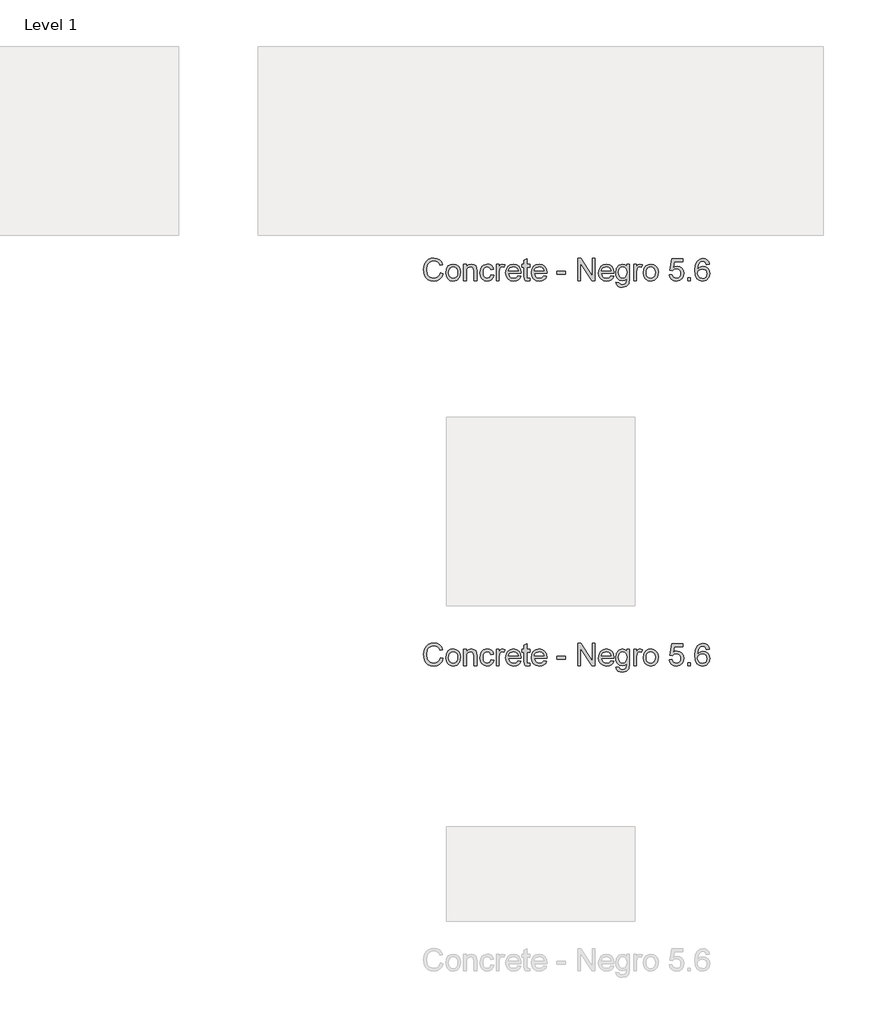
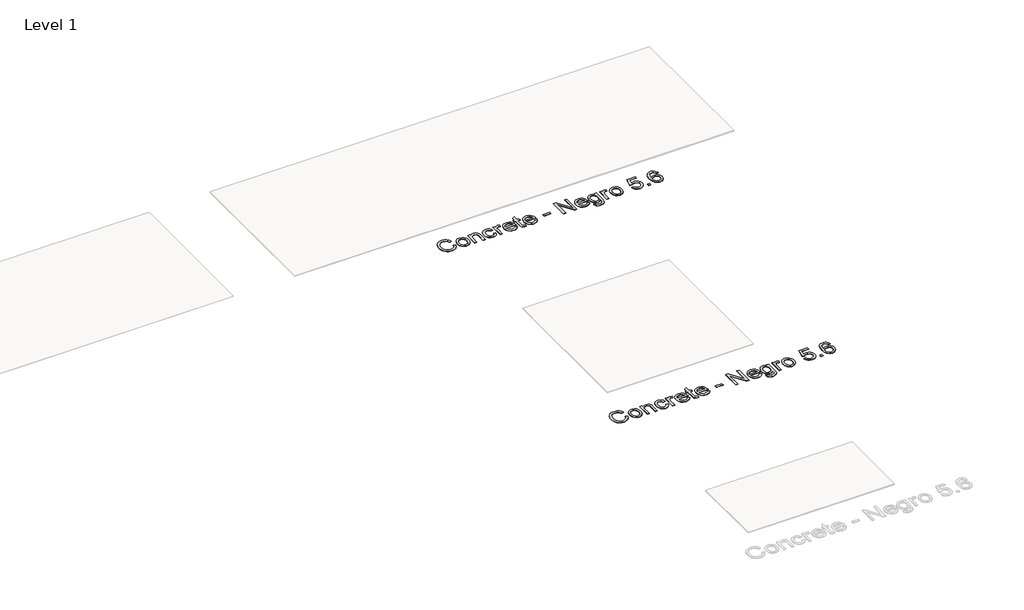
# One storey, part 67 of 80: 2 proxies.
"""IFC4 building model written with IfcOpenShell, lengths in millimetres."""

from ifc_helpers import new_model, si_unit, origin, origin_with_axes, place, context, project, spatial, polyline, outline, extrude, element, save

model = new_model("IFC4")

# Units and contexts
model_context = context("Model", 3, world=origin())
ifc_project = project(units=[si_unit("LENGTHUNIT", "METRE", prefix="MILLI")], contexts=[model_context])

# Site, building, storey
site = spatial("IfcSite", under=ifc_project)
building = spatial("IfcBuilding", under=site)
storey = spatial("IfcBuildingStorey", under=building, Name="Level 1", Elevation=0.0)

# Proxies
placement = place(None, origin())
element("IfcBuildingElementProxy", 1, Name="24\" Arial", ObjectType="24\" Arial", at=placement, inside=storey, context=model_context, shape_type="SweptSolid", body=[
    extrude(outline(polyline([(301.846969, 10790.728562), (316.6161998, 10786.9208697), (309.8012959, 10769.7105332), (299.1065844, 10757.1372159), (285.0585075, 10749.4461101), (268.1835075, 10746.8824082), (251.0524979, 10748.822312), (237.4479306, 10754.6420236), (227.0200459, 10764.1396197), (219.4190844, 10777.1131774), (214.7784594, 10792.3655813), (213.2315844, 10808.6997159), (214.9803825, 10825.9280813), (220.2267767, 10840.8054851), (228.6967286, 10852.8595717), (240.1161998, 10861.6179851), (253.659469, 10866.9509178), (268.5008152, 10868.728562), (284.6943248, 10866.4280813), (298.0825459, 10859.526639), (308.2472094, 10848.4497159), (314.7700459, 10833.6227928), (300.0008152, 10830.103562), (294.8806229, 10840.8739947), (287.8854306, 10848.2622159), (278.9286998, 10852.5350524), (267.9238921, 10853.9593313), (255.2387959, 10852.3800044), (244.8181229, 10847.6420236), (236.9106709, 10840.2429851), (231.7652383, 10830.6804851), (228.0008152, 10808.728562), (232.4575459, 10783.2862544), (238.1546613, 10773.7850524), (246.3325459, 10767.0314467), (266.7123536, 10761.651639), (279.0404786, 10763.4833697), (289.3133152, 10768.978562), (297.0693248, 10778.0795236), (301.846969, 10790.728562)])), origin_with_axes(), (0.0, 0.0, 1.0), 2.0),
    extrude(outline(polyline([(331.3854306, 10792.1131774), (334.5801421, 10813.0338505), (344.1642767, 10827.7381774), (356.0056229, 10834.9425044), (370.1835075, 10837.3439467), (385.6991325, 10834.4196678), (398.0921613, 10825.6468313), (406.2159594, 10811.7177447), (408.9238921, 10793.3247159), (404.1354306, 10767.0458697), (390.1883152, 10752.1756774), (370.1835075, 10746.8824082), (354.4803825, 10749.7958697), (342.1017767, 10758.5362544), (334.0645171, 10772.7574082), (331.3854306, 10792.1131774)]), holes=[polyline([(346.1546613, 10792.1420236), (347.8637959, 10778.775437), (352.9911998, 10769.2526005), (360.7075459, 10763.5518794), (370.1835075, 10761.651639), (379.6161998, 10763.5626967), (387.3181229, 10769.2958697), (392.4455267, 10778.9449082), (394.1546613, 10792.603562), (392.4347094, 10805.5807255), (387.2748536, 10814.9737544), (379.5621133, 10820.6744755), (370.1835075, 10822.5747159), (360.7075459, 10820.681687), (352.9911998, 10815.0026005), (347.8637959, 10805.5013986), (346.1546613, 10792.1420236)])]), origin_with_axes(), (0.0, 0.0, 1.0), 2.0),
    extrude(outline(polyline([(425.5392767, 10748.728562), (425.5392767, 10835.4977928), (440.3085075, 10835.4977928), (440.3085075, 10823.3824082), (451.6017767, 10833.853562), (467.0200459, 10837.3439467), (480.9671613, 10834.5314467), (490.4863921, 10827.1468313), (494.9142767, 10816.2862544), (495.6931229, 10802.0074082), (495.6931229, 10748.728562), (480.9238921, 10748.728562), (480.9238921, 10800.0170236), (479.221969, 10813.0843313), (473.2075459, 10819.9929851), (463.0681229, 10822.5747159), (447.0440844, 10816.776639), (441.9924017, 10808.3751967), (440.3085075, 10794.7670236), (440.3085075, 10748.728562), (425.5392767, 10748.728562)])), origin_with_axes(), (0.0, 0.0, 1.0), 2.0),
    extrude(outline(polyline([(571.3854306, 10780.1131774), (586.1546613, 10778.2670236), (582.0368729, 10765.1312063), (574.2988921, 10755.2045236), (563.6690844, 10748.962937), (550.8758152, 10746.8824082), (535.1654786, 10749.7850524), (522.8806229, 10758.4929851), (514.9515363, 10772.6239947), (512.3085075, 10791.7958697), (516.8229306, 10816.3295236), (522.5200459, 10825.5278409), (530.5825459, 10832.0939467), (550.6738921, 10837.3439467), (563.1534594, 10835.541062), (573.1306229, 10830.1324082), (580.2880748, 10821.4064467), (584.3085075, 10809.651639), (569.5392767, 10807.8054851), (562.6883152, 10818.8679851), (550.7892767, 10822.5747159), (541.2448056, 10820.7501967), (533.6690844, 10815.276639), (528.7255748, 10805.8583697), (527.0777383, 10792.1997159), (528.6895171, 10778.3571678), (533.5248536, 10768.9064467), (540.9635556, 10763.4653409), (550.3854306, 10761.651639), (564.3036998, 10766.1804851), (571.3854306, 10780.1131774)])), origin_with_axes(), (0.0, 0.0, 1.0), 2.0),
    extrude(outline(polyline([(599.0777383, 10748.728562), (599.0777383, 10835.4977928), (612.0008152, 10835.4977928), (612.0008152, 10822.6612544), (621.1738921, 10834.4881774), (630.4046613, 10837.3439467), (645.2315844, 10832.7862544), (640.2988921, 10819.5458697), (629.9142767, 10822.5747159), (621.5633152, 10819.6612544), (616.2411998, 10811.5843313), (613.846969, 10794.3343313), (613.846969, 10748.728562), (599.0777383, 10748.728562)])), origin_with_axes(), (0.0, 0.0, 1.0), 2.0),
    extrude(outline(polyline([(715.2123536, 10774.5747159), (729.6931229, 10772.728562), (724.4755748, 10761.8175044), (716.1498536, 10753.6612544), (704.9034594, 10748.5771197), (690.9238921, 10746.8824082), (673.5945652, 10749.806687), (660.2604306, 10758.5795236), (651.7580267, 10772.6312063), (648.9238921, 10791.3920236), (651.7868729, 10810.7838505), (660.3758152, 10825.2862544), (673.5296613, 10834.3295236), (690.0873536, 10837.3439467), (706.1294209, 10834.3367351), (718.9479306, 10825.3151005), (727.3529786, 10810.8415428), (730.1546613, 10791.478562), (730.0681229, 10787.4977928), (663.6931229, 10787.4977928), (666.2496133, 10776.4425044), (672.1883152, 10768.3151005), (680.7592286, 10763.3175044), (691.2123536, 10761.651639), (705.6931229, 10764.7381774), (715.2123536, 10774.5747159)]), holes=[polyline([(663.6931229, 10802.2670236), (715.3854306, 10802.2670236), (709.471969, 10815.651639), (700.8613921, 10820.8439467), (690.0296613, 10822.5747159), (671.8421613, 10817.0506774), (666.1198056, 10810.5927447), (663.6931229, 10802.2670236)])]), origin_with_axes(), (0.0, 0.0, 1.0), 2.0),
    extrude(outline(polyline([(776.3085075, 10761.0458697), (778.1546613, 10748.2958697), (767.1065844, 10746.8824082), (754.7315844, 10749.3343313), (748.5585075, 10755.7670236), (746.7700459, 10772.526639), (746.7700459, 10820.728562), (735.6931229, 10820.728562), (735.6931229, 10835.4977928), (746.7700459, 10835.4977928), (746.7700459, 10856.5843313), (761.5392767, 10865.2670236), (761.5392767, 10835.4977928), (776.3085075, 10835.4977928), (776.3085075, 10820.728562), (761.5392767, 10820.728562), (761.5392767, 10772.9593313), (762.3181229, 10765.3439467), (764.8421613, 10762.6468313), (769.8758152, 10761.651639), (776.3085075, 10761.0458697)])), origin_with_axes(), (0.0, 0.0, 1.0), 2.0),
    extrude(outline(polyline([(851.8277383, 10774.5747159), (866.3085075, 10772.728562), (861.0909594, 10761.8175044), (852.7652383, 10753.6612544), (841.518844, 10748.5771197), (827.5392767, 10746.8824082), (810.2099498, 10749.806687), (796.8758152, 10758.5795236), (788.3734113, 10772.6312063), (785.5392767, 10791.3920236), (788.4022575, 10810.7838505), (796.9911998, 10825.2862544), (810.1450459, 10834.3295236), (826.7027383, 10837.3439467), (842.7448056, 10834.3367351), (855.5633152, 10825.3151005), (863.9683633, 10810.8415428), (866.7700459, 10791.478562), (866.6835075, 10787.4977928), (800.3085075, 10787.4977928), (802.8649979, 10776.4425044), (808.8036998, 10768.3151005), (817.3746133, 10763.3175044), (827.8277383, 10761.651639), (842.3085075, 10764.7381774), (851.8277383, 10774.5747159)]), holes=[polyline([(800.3085075, 10802.2670236), (852.0008152, 10802.2670236), (846.0873536, 10815.651639), (837.4767767, 10820.8439467), (826.6450459, 10822.5747159), (808.4575459, 10817.0506774), (802.7351902, 10810.5927447), (800.3085075, 10802.2670236)])]), origin_with_axes(), (0.0, 0.0, 1.0), 2.0),
    extrude(outline(polyline([(920.3085075, 10783.8054851), (920.3085075, 10798.5747159), (966.4623536, 10798.5747159), (966.4623536, 10783.8054851), (920.3085075, 10783.8054851)])), origin_with_axes(), (0.0, 0.0, 1.0), 2.0),
    extrude(outline(polyline([(1031.0777383, 10748.728562), (1031.0777383, 10866.8824082), (1046.8854306, 10866.8824082), (1108.6161998, 10773.276639), (1108.6161998, 10866.8824082), (1123.3854306, 10866.8824082), (1123.3854306, 10748.728562), (1107.5777383, 10748.728562), (1045.846969, 10842.3631774), (1045.846969, 10748.728562), (1031.0777383, 10748.728562)])), origin_with_axes(), (0.0, 0.0, 1.0), 2.0),
    extrude(outline(polyline([(1208.1354306, 10774.5747159), (1222.6161998, 10772.728562), (1217.3986517, 10761.8175044), (1209.0729306, 10753.6612544), (1197.8265363, 10748.5771197), (1183.846969, 10746.8824082), (1166.5176421, 10749.806687), (1153.1835075, 10758.5795236), (1144.6811036, 10772.6312063), (1141.846969, 10791.3920236), (1144.7099498, 10810.7838505), (1153.2988921, 10825.2862544), (1166.4527383, 10834.3295236), (1183.0104306, 10837.3439467), (1199.0524979, 10834.3367351), (1211.8710075, 10825.3151005), (1220.2760556, 10810.8415428), (1223.0777383, 10791.478562), (1222.9911998, 10787.4977928), (1156.6161998, 10787.4977928), (1159.1726902, 10776.4425044), (1165.1113921, 10768.3151005), (1173.6823056, 10763.3175044), (1184.1354306, 10761.651639), (1198.6161998, 10764.7381774), (1208.1354306, 10774.5747159)]), holes=[polyline([(1156.6161998, 10802.2670236), (1208.3085075, 10802.2670236), (1202.3950459, 10815.651639), (1193.784469, 10820.8439467), (1182.9527383, 10822.5747159), (1164.7652383, 10817.0506774), (1159.0428825, 10810.5927447), (1156.6161998, 10802.2670236)])]), origin_with_axes(), (0.0, 0.0, 1.0), 2.0),
    extrude(outline(polyline([(1234.1546613, 10741.3439467), (1248.9238921, 10739.4977928), (1253.7123536, 10731.7093313), (1268.0488921, 10728.4208697), (1283.1642767, 10732.1420236), (1290.3758152, 10742.5843313), (1291.3854306, 10759.8054851), (1280.9863921, 10751.4977928), (1268.3085075, 10748.728562), (1253.081344, 10751.9521197), (1241.7267767, 10761.6227928), (1234.6630748, 10775.8006774), (1232.3085075, 10792.5458697), (1236.534469, 10815.4352928), (1248.7652383, 10831.6324082), (1267.5873536, 10837.3439467), (1280.7628344, 10834.1131774), (1291.3854306, 10824.4208697), (1291.3854306, 10835.4977928), (1306.1546613, 10835.4977928), (1306.1546613, 10760.5843313), (1302.1161998, 10731.8968313), (1289.3229306, 10718.5554851), (1267.7604306, 10713.651639), (1254.018844, 10715.3788024), (1243.1979306, 10720.5602928), (1236.2568248, 10729.2105332), (1234.1546613, 10741.3439467)]), holes=[polyline([(1247.0777383, 10793.5554851), (1248.6534594, 10780.0086101), (1253.3806229, 10770.6949082), (1260.487594, 10765.2970717), (1269.2027383, 10763.4977928), (1277.8529786, 10765.2862544), (1284.9960075, 10770.651639), (1289.7880748, 10779.8463505), (1291.3854306, 10793.1227928), (1289.7411998, 10805.9268794), (1284.8085075, 10815.1468313), (1277.5609113, 10820.7177447), (1268.971969, 10822.5747159), (1260.5380748, 10820.7465909), (1253.4671613, 10815.2622159), (1248.675094, 10806.1792832), (1247.0777383, 10793.5554851)])]), origin_with_axes(), (0.0, 0.0, 1.0), 2.0),
    extrude(outline(polyline([(1328.3085075, 10748.728562), (1328.3085075, 10835.4977928), (1341.2315844, 10835.4977928), (1341.2315844, 10822.6612544), (1350.4046613, 10834.4881774), (1359.6354306, 10837.3439467), (1374.4623536, 10832.7862544), (1369.5296613, 10819.5458697), (1359.1450459, 10822.5747159), (1350.7940844, 10819.6612544), (1345.471969, 10811.5843313), (1343.0777383, 10794.3343313), (1343.0777383, 10748.728562), (1328.3085075, 10748.728562)])), origin_with_axes(), (0.0, 0.0, 1.0), 2.0),
    extrude(outline(polyline([(1380.0008152, 10792.1131774), (1383.1955267, 10813.0338505), (1392.7796613, 10827.7381774), (1404.6210075, 10834.9425044), (1418.7988921, 10837.3439467), (1434.3145171, 10834.4196678), (1446.7075459, 10825.6468313), (1454.831344, 10811.7177447), (1457.5392767, 10793.3247159), (1452.7508152, 10767.0458697), (1438.8036998, 10752.1756774), (1418.7988921, 10746.8824082), (1403.0957671, 10749.7958697), (1390.7171613, 10758.5362544), (1382.6799017, 10772.7574082), (1380.0008152, 10792.1131774)]), holes=[polyline([(1394.7700459, 10792.1420236), (1396.4791806, 10778.775437), (1401.6065844, 10769.2526005), (1409.3229306, 10763.5518794), (1418.7988921, 10761.651639), (1428.2315844, 10763.5626967), (1435.9335075, 10769.2958697), (1441.0609113, 10778.9449082), (1442.7700459, 10792.603562), (1441.050094, 10805.5807255), (1435.8902383, 10814.9737544), (1428.1774979, 10820.6744755), (1418.7988921, 10822.5747159), (1409.3229306, 10820.681687), (1401.6065844, 10815.0026005), (1396.4791806, 10805.5013986), (1394.7700459, 10792.1420236)])]), origin_with_axes(), (0.0, 0.0, 1.0), 2.0),
    extrude(outline(polyline([(1516.6161998, 10780.1131774), (1531.3854306, 10781.9593313), (1538.8277383, 10766.7429851), (1554.2604306, 10761.651639), (1564.846969, 10763.4220717), (1572.7796613, 10768.7333697), (1577.7339883, 10776.9725524), (1579.3854306, 10787.526639), (1577.8385556, 10797.464139), (1573.1979306, 10805.0651005), (1565.4274979, 10809.8896197), (1554.4911998, 10811.4977928), (1541.5248536, 10808.9304851), (1533.2315844, 10802.2670236), (1518.4623536, 10804.1131774), (1531.3854306, 10865.0362544), (1588.6161998, 10865.0362544), (1588.6161998, 10850.2670236), (1543.3277383, 10850.2670236), (1537.0104306, 10817.728562), (1547.5609113, 10824.1324082), (1558.6161998, 10826.2670236), (1572.4154786, 10823.620389), (1583.8710075, 10815.6804851), (1591.5837479, 10803.5795236), (1594.1546613, 10788.4497159), (1591.8397575, 10773.6804851), (1584.8950459, 10761.0458697), (1571.596969, 10750.4232736), (1554.2027383, 10746.8824082), (1539.6967286, 10749.1576486), (1528.1402383, 10755.9833697), (1520.2183633, 10766.5663024), (1516.6161998, 10780.1131774)])), origin_with_axes(), (0.0, 0.0, 1.0), 2.0),
    extrude(outline(polyline([(1614.4623536, 10748.728562), (1614.4623536, 10763.4977928), (1629.2315844, 10763.4977928), (1629.2315844, 10748.728562), (1614.4623536, 10748.728562)])), origin_with_axes(), (0.0, 0.0, 1.0), 2.0),
    extrude(outline(polyline([(1728.9238921, 10835.4977928), (1714.1546613, 10833.651639), (1708.5585075, 10845.9689467), (1701.8589883, 10850.5771197), (1693.7604306, 10852.1131774), (1680.4335075, 10848.5362544), (1670.3517767, 10835.1083697), (1666.1546613, 10808.7862544), (1679.1786998, 10820.5699082), (1695.3181229, 10824.4208697), (1708.9623536, 10821.7886582), (1720.4142767, 10813.8920236), (1728.1811036, 10801.8271197), (1730.7700459, 10786.6901005), (1725.8950459, 10766.3102928), (1712.4815844, 10751.8872159), (1693.1258152, 10746.8824082), (1676.3698056, 10750.1997159), (1663.0248536, 10760.151639), (1654.2952863, 10777.7189467), (1651.3854306, 10803.8824082), (1654.6161998, 10833.2982736), (1664.3085075, 10853.4112544), (1677.5416806, 10863.5146197), (1694.6835075, 10866.8824082), (1707.6426421, 10864.7982736), (1718.0200459, 10858.5458697), (1725.2892767, 10848.6155813), (1728.9238921, 10835.4977928)]), holes=[polyline([(1666.1546613, 10786.9208697), (1669.5729306, 10774.1276005), (1678.659469, 10764.839139), (1691.971969, 10761.651639), (1701.7183633, 10763.3030813), (1709.3806229, 10768.2574082), (1714.3457671, 10776.0458697), (1716.0008152, 10786.1997159), (1714.3674017, 10795.9461101), (1709.4671613, 10803.3776005), (1701.675094, 10808.0831294), (1691.3661998, 10809.651639), (1681.6342286, 10808.0831294), (1673.4960075, 10803.3776005), (1667.9899979, 10796.1263986), (1666.1546613, 10786.9208697)])]), origin_with_axes(), (0.0, 0.0, 1.0), 2.0),
])
element("IfcBuildingElementProxy", 2, Name="24\" Arial", ObjectType="24\" Arial", at=placement, inside=storey, context=model_context, shape_type="SweptSolid", body=[
    extrude(outline(polyline([(301.846969, 8750.084666), (316.6161998, 8746.2769737), (309.8012959, 8729.0666372), (299.1065844, 8716.4933199), (285.0585075, 8708.8022141), (268.1835075, 8706.2385122), (251.0524979, 8708.178416), (237.4479306, 8713.9981275), (227.0200459, 8723.4957237), (219.4190844, 8736.4692814), (214.7784594, 8751.7216852), (213.2315844, 8768.0558199), (214.9803825, 8785.2841852), (220.2267767, 8800.1615891), (228.6967286, 8812.2156756), (240.1161998, 8820.9740891), (253.659469, 8826.3070218), (268.5008152, 8828.084666), (284.6943248, 8825.7841852), (298.0825459, 8818.8827429), (308.2472094, 8807.8058199), (314.7700459, 8792.9788968), (300.0008152, 8789.459666), (294.8806229, 8800.2300987), (287.8854306, 8807.6183199), (278.9286998, 8811.8911564), (267.9238921, 8813.3154352), (255.2387959, 8811.7361083), (244.8181229, 8806.9981275), (236.9106709, 8799.5990891), (231.7652383, 8790.0365891), (228.0008152, 8768.084666), (232.4575459, 8742.6423583), (238.1546613, 8733.1411564), (246.3325459, 8726.3875506), (266.7123536, 8721.0077429), (279.0404786, 8722.8394737), (289.3133152, 8728.334666), (297.0693248, 8737.4356275), (301.846969, 8750.084666)])), origin_with_axes(), (0.0, 0.0, 1.0), 2.0),
    extrude(outline(polyline([(331.3854306, 8751.4692814), (334.5801421, 8772.3899545), (344.1642767, 8787.0942814), (356.0056229, 8794.2986083), (370.1835075, 8796.7000506), (385.6991325, 8793.7757718), (398.0921613, 8785.0029352), (406.2159594, 8771.0738487), (408.9238921, 8752.6808199), (404.1354306, 8726.4019737), (390.1883152, 8711.5317814), (370.1835075, 8706.2385122), (354.4803825, 8709.1519737), (342.1017767, 8717.8923583), (334.0645171, 8732.1135122), (331.3854306, 8751.4692814)]), holes=[polyline([(346.1546613, 8751.4981275), (347.8637959, 8738.131541), (352.9911998, 8728.6087045), (360.7075459, 8722.9079833), (370.1835075, 8721.0077429), (379.6161998, 8722.9188006), (387.3181229, 8728.6519737), (392.4455267, 8738.3010122), (394.1546613, 8751.959666), (392.4347094, 8764.9368295), (387.2748536, 8774.3298583), (379.5621133, 8780.0305795), (370.1835075, 8781.9308199), (360.7075459, 8780.037791), (352.9911998, 8774.3587045), (347.8637959, 8764.8575025), (346.1546613, 8751.4981275)])]), origin_with_axes(), (0.0, 0.0, 1.0), 2.0),
    extrude(outline(polyline([(425.5392767, 8708.084666), (425.5392767, 8794.8538968), (440.3085075, 8794.8538968), (440.3085075, 8782.7385122), (451.6017767, 8793.209666), (467.0200459, 8796.7000506), (480.9671613, 8793.8875506), (490.4863921, 8786.5029352), (494.9142767, 8775.6423583), (495.6931229, 8761.3635122), (495.6931229, 8708.084666), (480.9238921, 8708.084666), (480.9238921, 8759.3731275), (479.221969, 8772.4404352), (473.2075459, 8779.3490891), (463.0681229, 8781.9308199), (447.0440844, 8776.1327429), (441.9924017, 8767.7313006), (440.3085075, 8754.1231275), (440.3085075, 8708.084666), (425.5392767, 8708.084666)])), origin_with_axes(), (0.0, 0.0, 1.0), 2.0),
    extrude(outline(polyline([(571.3854306, 8739.4692814), (586.1546613, 8737.6231275), (582.0368729, 8724.4873102), (574.2988921, 8714.5606275), (563.6690844, 8708.319041), (550.8758152, 8706.2385122), (535.1654786, 8709.1411564), (522.8806229, 8717.8490891), (514.9515363, 8731.9800987), (512.3085075, 8751.1519737), (516.8229306, 8775.6856275), (522.5200459, 8784.8839449), (530.5825459, 8791.4500506), (550.6738921, 8796.7000506), (563.1534594, 8794.897166), (573.1306229, 8789.4885122), (580.2880748, 8780.7625506), (584.3085075, 8769.0077429), (569.5392767, 8767.1615891), (562.6883152, 8778.2240891), (550.7892767, 8781.9308199), (541.2448056, 8780.1063006), (533.6690844, 8774.6327429), (528.7255748, 8765.2144737), (527.0777383, 8751.5558199), (528.6895171, 8737.7132718), (533.5248536, 8728.2625506), (540.9635556, 8722.8214449), (550.3854306, 8721.0077429), (564.3036998, 8725.5365891), (571.3854306, 8739.4692814)])), origin_with_axes(), (0.0, 0.0, 1.0), 2.0),
    extrude(outline(polyline([(599.0777383, 8708.084666), (599.0777383, 8794.8538968), (612.0008152, 8794.8538968), (612.0008152, 8782.0173583), (621.1738921, 8793.8442814), (630.4046613, 8796.7000506), (645.2315844, 8792.1423583), (640.2988921, 8778.9019737), (629.9142767, 8781.9308199), (621.5633152, 8779.0173583), (616.2411998, 8770.9404352), (613.846969, 8753.6904352), (613.846969, 8708.084666), (599.0777383, 8708.084666)])), origin_with_axes(), (0.0, 0.0, 1.0), 2.0),
    extrude(outline(polyline([(715.2123536, 8733.9308199), (729.6931229, 8732.084666), (724.4755748, 8721.1736083), (716.1498536, 8713.0173583), (704.9034594, 8707.9332237), (690.9238921, 8706.2385122), (673.5945652, 8709.162791), (660.2604306, 8717.9356275), (651.7580267, 8731.9873102), (648.9238921, 8750.7481275), (651.7868729, 8770.1399545), (660.3758152, 8784.6423583), (673.5296613, 8793.6856275), (690.0873536, 8796.7000506), (706.1294209, 8793.6928391), (718.9479306, 8784.6712045), (727.3529786, 8770.1976468), (730.1546613, 8750.834666), (730.0681229, 8746.8538968), (663.6931229, 8746.8538968), (666.2496133, 8735.7986083), (672.1883152, 8727.6712045), (680.7592286, 8722.6736083), (691.2123536, 8721.0077429), (705.6931229, 8724.0942814), (715.2123536, 8733.9308199)]), holes=[polyline([(663.6931229, 8761.6231275), (715.3854306, 8761.6231275), (709.471969, 8775.0077429), (700.8613921, 8780.2000506), (690.0296613, 8781.9308199), (671.8421613, 8776.4067814), (666.1198056, 8769.9488487), (663.6931229, 8761.6231275)])]), origin_with_axes(), (0.0, 0.0, 1.0), 2.0),
    extrude(outline(polyline([(776.3085075, 8720.4019737), (778.1546613, 8707.6519737), (767.1065844, 8706.2385122), (754.7315844, 8708.6904352), (748.5585075, 8715.1231275), (746.7700459, 8731.8827429), (746.7700459, 8780.084666), (735.6931229, 8780.084666), (735.6931229, 8794.8538968), (746.7700459, 8794.8538968), (746.7700459, 8815.9404352), (761.5392767, 8824.6231275), (761.5392767, 8794.8538968), (776.3085075, 8794.8538968), (776.3085075, 8780.084666), (761.5392767, 8780.084666), (761.5392767, 8732.3154352), (762.3181229, 8724.7000506), (764.8421613, 8722.0029352), (769.8758152, 8721.0077429), (776.3085075, 8720.4019737)])), origin_with_axes(), (0.0, 0.0, 1.0), 2.0),
    extrude(outline(polyline([(851.8277383, 8733.9308199), (866.3085075, 8732.084666), (861.0909594, 8721.1736083), (852.7652383, 8713.0173583), (841.518844, 8707.9332237), (827.5392767, 8706.2385122), (810.2099498, 8709.162791), (796.8758152, 8717.9356275), (788.3734113, 8731.9873102), (785.5392767, 8750.7481275), (788.4022575, 8770.1399545), (796.9911998, 8784.6423583), (810.1450459, 8793.6856275), (826.7027383, 8796.7000506), (842.7448056, 8793.6928391), (855.5633152, 8784.6712045), (863.9683633, 8770.1976468), (866.7700459, 8750.834666), (866.6835075, 8746.8538968), (800.3085075, 8746.8538968), (802.8649979, 8735.7986083), (808.8036998, 8727.6712045), (817.3746133, 8722.6736083), (827.8277383, 8721.0077429), (842.3085075, 8724.0942814), (851.8277383, 8733.9308199)]), holes=[polyline([(800.3085075, 8761.6231275), (852.0008152, 8761.6231275), (846.0873536, 8775.0077429), (837.4767767, 8780.2000506), (826.6450459, 8781.9308199), (808.4575459, 8776.4067814), (802.7351902, 8769.9488487), (800.3085075, 8761.6231275)])]), origin_with_axes(), (0.0, 0.0, 1.0), 2.0),
    extrude(outline(polyline([(920.3085075, 8743.1615891), (920.3085075, 8757.9308199), (966.4623536, 8757.9308199), (966.4623536, 8743.1615891), (920.3085075, 8743.1615891)])), origin_with_axes(), (0.0, 0.0, 1.0), 2.0),
    extrude(outline(polyline([(1031.0777383, 8708.084666), (1031.0777383, 8826.2385122), (1046.8854306, 8826.2385122), (1108.6161998, 8732.6327429), (1108.6161998, 8826.2385122), (1123.3854306, 8826.2385122), (1123.3854306, 8708.084666), (1107.5777383, 8708.084666), (1045.846969, 8801.7192814), (1045.846969, 8708.084666), (1031.0777383, 8708.084666)])), origin_with_axes(), (0.0, 0.0, 1.0), 2.0),
    extrude(outline(polyline([(1208.1354306, 8733.9308199), (1222.6161998, 8732.084666), (1217.3986517, 8721.1736083), (1209.0729306, 8713.0173583), (1197.8265363, 8707.9332237), (1183.846969, 8706.2385122), (1166.5176421, 8709.162791), (1153.1835075, 8717.9356275), (1144.6811036, 8731.9873102), (1141.846969, 8750.7481275), (1144.7099498, 8770.1399545), (1153.2988921, 8784.6423583), (1166.4527383, 8793.6856275), (1183.0104306, 8796.7000506), (1199.0524979, 8793.6928391), (1211.8710075, 8784.6712045), (1220.2760556, 8770.1976468), (1223.0777383, 8750.834666), (1222.9911998, 8746.8538968), (1156.6161998, 8746.8538968), (1159.1726902, 8735.7986083), (1165.1113921, 8727.6712045), (1173.6823056, 8722.6736083), (1184.1354306, 8721.0077429), (1198.6161998, 8724.0942814), (1208.1354306, 8733.9308199)]), holes=[polyline([(1156.6161998, 8761.6231275), (1208.3085075, 8761.6231275), (1202.3950459, 8775.0077429), (1193.784469, 8780.2000506), (1182.9527383, 8781.9308199), (1164.7652383, 8776.4067814), (1159.0428825, 8769.9488487), (1156.6161998, 8761.6231275)])]), origin_with_axes(), (0.0, 0.0, 1.0), 2.0),
    extrude(outline(polyline([(1234.1546613, 8700.7000506), (1248.9238921, 8698.8538968), (1253.7123536, 8691.0654352), (1268.0488921, 8687.7769737), (1283.1642767, 8691.4981275), (1290.3758152, 8701.9404352), (1291.3854306, 8719.1615891), (1280.9863921, 8710.8538968), (1268.3085075, 8708.084666), (1253.081344, 8711.3082237), (1241.7267767, 8720.9788968), (1234.6630748, 8735.1567814), (1232.3085075, 8751.9019737), (1236.534469, 8774.7913968), (1248.7652383, 8790.9885122), (1267.5873536, 8796.7000506), (1280.7628344, 8793.4692814), (1291.3854306, 8783.7769737), (1291.3854306, 8794.8538968), (1306.1546613, 8794.8538968), (1306.1546613, 8719.9404352), (1302.1161998, 8691.2529352), (1289.3229306, 8677.9115891), (1267.7604306, 8673.0077429), (1254.018844, 8674.7349064), (1243.1979306, 8679.9163968), (1236.2568248, 8688.5666372), (1234.1546613, 8700.7000506)]), holes=[polyline([(1247.0777383, 8752.9115891), (1248.6534594, 8739.3647141), (1253.3806229, 8730.0510122), (1260.487594, 8724.6531756), (1269.2027383, 8722.8538968), (1277.8529786, 8724.6423583), (1284.9960075, 8730.0077429), (1289.7880748, 8739.2024545), (1291.3854306, 8752.4788968), (1289.7411998, 8765.2829833), (1284.8085075, 8774.5029352), (1277.5609113, 8780.0738487), (1268.971969, 8781.9308199), (1260.5380748, 8780.1026949), (1253.4671613, 8774.6183199), (1248.675094, 8765.5353872), (1247.0777383, 8752.9115891)])]), origin_with_axes(), (0.0, 0.0, 1.0), 2.0),
    extrude(outline(polyline([(1328.3085075, 8708.084666), (1328.3085075, 8794.8538968), (1341.2315844, 8794.8538968), (1341.2315844, 8782.0173583), (1350.4046613, 8793.8442814), (1359.6354306, 8796.7000506), (1374.4623536, 8792.1423583), (1369.5296613, 8778.9019737), (1359.1450459, 8781.9308199), (1350.7940844, 8779.0173583), (1345.471969, 8770.9404352), (1343.0777383, 8753.6904352), (1343.0777383, 8708.084666), (1328.3085075, 8708.084666)])), origin_with_axes(), (0.0, 0.0, 1.0), 2.0),
    extrude(outline(polyline([(1380.0008152, 8751.4692814), (1383.1955267, 8772.3899545), (1392.7796613, 8787.0942814), (1404.6210075, 8794.2986083), (1418.7988921, 8796.7000506), (1434.3145171, 8793.7757718), (1446.7075459, 8785.0029352), (1454.831344, 8771.0738487), (1457.5392767, 8752.6808199), (1452.7508152, 8726.4019737), (1438.8036998, 8711.5317814), (1418.7988921, 8706.2385122), (1403.0957671, 8709.1519737), (1390.7171613, 8717.8923583), (1382.6799017, 8732.1135122), (1380.0008152, 8751.4692814)]), holes=[polyline([(1394.7700459, 8751.4981275), (1396.4791806, 8738.131541), (1401.6065844, 8728.6087045), (1409.3229306, 8722.9079833), (1418.7988921, 8721.0077429), (1428.2315844, 8722.9188006), (1435.9335075, 8728.6519737), (1441.0609113, 8738.3010122), (1442.7700459, 8751.959666), (1441.050094, 8764.9368295), (1435.8902383, 8774.3298583), (1428.1774979, 8780.0305795), (1418.7988921, 8781.9308199), (1409.3229306, 8780.037791), (1401.6065844, 8774.3587045), (1396.4791806, 8764.8575025), (1394.7700459, 8751.4981275)])]), origin_with_axes(), (0.0, 0.0, 1.0), 2.0),
    extrude(outline(polyline([(1516.6161998, 8739.4692814), (1531.3854306, 8741.3154352), (1538.8277383, 8726.0990891), (1554.2604306, 8721.0077429), (1564.846969, 8722.7781756), (1572.7796613, 8728.0894737), (1577.7339883, 8736.3286564), (1579.3854306, 8746.8827429), (1577.8385556, 8756.8202429), (1573.1979306, 8764.4212045), (1565.4274979, 8769.2457237), (1554.4911998, 8770.8538968), (1541.5248536, 8768.2865891), (1533.2315844, 8761.6231275), (1518.4623536, 8763.4692814), (1531.3854306, 8824.3923583), (1588.6161998, 8824.3923583), (1588.6161998, 8809.6231275), (1543.3277383, 8809.6231275), (1537.0104306, 8777.084666), (1547.5609113, 8783.4885122), (1558.6161998, 8785.6231275), (1572.4154786, 8782.9764929), (1583.8710075, 8775.0365891), (1591.5837479, 8762.9356275), (1594.1546613, 8747.8058199), (1591.8397575, 8733.0365891), (1584.8950459, 8720.4019737), (1571.596969, 8709.7793775), (1554.2027383, 8706.2385122), (1539.6967286, 8708.5137525), (1528.1402383, 8715.3394737), (1520.2183633, 8725.9224064), (1516.6161998, 8739.4692814)])), origin_with_axes(), (0.0, 0.0, 1.0), 2.0),
    extrude(outline(polyline([(1614.4623536, 8708.084666), (1614.4623536, 8722.8538968), (1629.2315844, 8722.8538968), (1629.2315844, 8708.084666), (1614.4623536, 8708.084666)])), origin_with_axes(), (0.0, 0.0, 1.0), 2.0),
    extrude(outline(polyline([(1728.9238921, 8794.8538968), (1714.1546613, 8793.0077429), (1708.5585075, 8805.3250506), (1701.8589883, 8809.9332237), (1693.7604306, 8811.4692814), (1680.4335075, 8807.8923583), (1670.3517767, 8794.4644737), (1666.1546613, 8768.1423583), (1679.1786998, 8779.9260122), (1695.3181229, 8783.7769737), (1708.9623536, 8781.1447622), (1720.4142767, 8773.2481275), (1728.1811036, 8761.1832237), (1730.7700459, 8746.0462045), (1725.8950459, 8725.6663968), (1712.4815844, 8711.2433199), (1693.1258152, 8706.2385122), (1676.3698056, 8709.5558199), (1663.0248536, 8719.5077429), (1654.2952863, 8737.0750506), (1651.3854306, 8763.2385122), (1654.6161998, 8792.6543775), (1664.3085075, 8812.7673583), (1677.5416806, 8822.8707237), (1694.6835075, 8826.2385122), (1707.6426421, 8824.1543775), (1718.0200459, 8817.9019737), (1725.2892767, 8807.9716852), (1728.9238921, 8794.8538968)]), holes=[polyline([(1666.1546613, 8746.2769737), (1669.5729306, 8733.4837045), (1678.659469, 8724.1952429), (1691.971969, 8721.0077429), (1701.7183633, 8722.6591852), (1709.3806229, 8727.6135122), (1714.3457671, 8735.4019737), (1716.0008152, 8745.5558199), (1714.3674017, 8755.3022141), (1709.4671613, 8762.7337045), (1701.675094, 8767.4392333), (1691.3661998, 8769.0077429), (1681.6342286, 8767.4392333), (1673.4960075, 8762.7337045), (1667.9899979, 8755.4825025), (1666.1546613, 8746.2769737)])]), origin_with_axes(), (0.0, 0.0, 1.0), 2.0),
])

save(model, "model.ifc")
